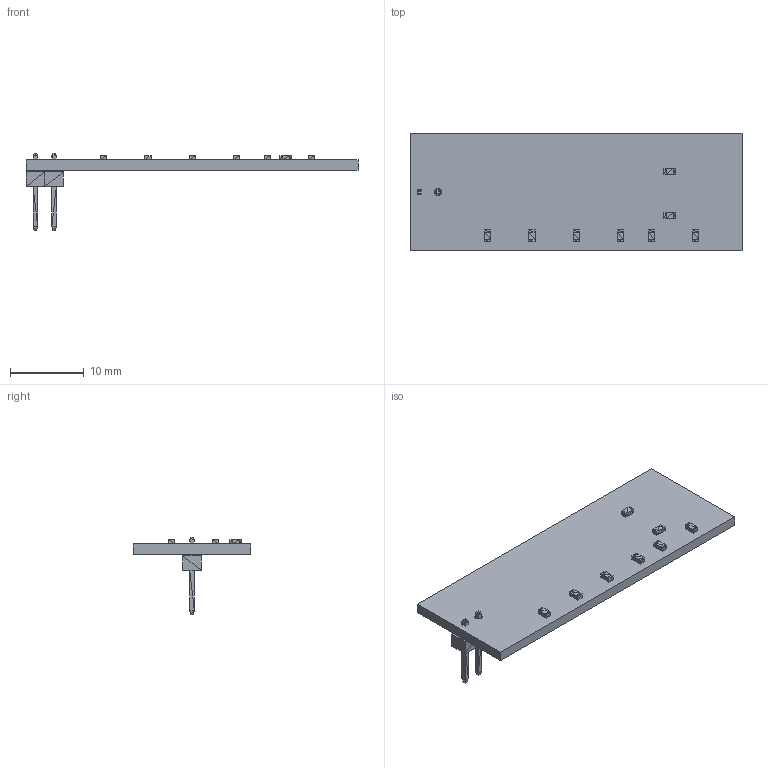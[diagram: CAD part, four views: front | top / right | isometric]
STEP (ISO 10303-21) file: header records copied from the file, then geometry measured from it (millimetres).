
FILE_DESCRIPTION(('PCB'),'2;1');
FILE_NAME('PCB','2026-07-24',('tscircuit'),('tscircuit'),'generator','','');
FILE_SCHEMA(('AUTOMOTIVE_DESIGN { 1 0 10303 214 1 1 1 1 }'));
Length unit declared in the file: millimetre
Products named in the file (1): PCB
Bounding box: 45.04 x 16 x 10.5 mm (x, y, z)
Volume: 1007.6 mm3; surface area: 1784.1 mm2
Topology: 1 solids, 393 shells, 399 faces, 1190 edges, 1186 vertices
Faces by surface type: plane 398, cylinder 1
Entity records: 11697 total; most frequent: DIRECTION 1984, ORIENTED_EDGE 1204, CARTESIAN_POINT 1190, EDGE_CURVE 1190, VECTOR 1188, LINE 1188, VERTEX_POINT 1186, AXIS2_PLACEMENT_3D 401
